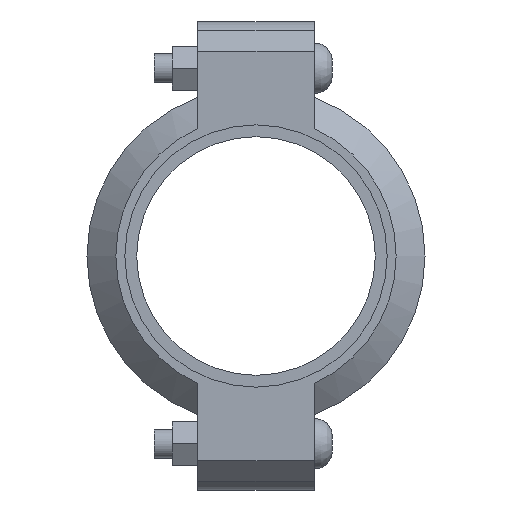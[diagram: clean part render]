
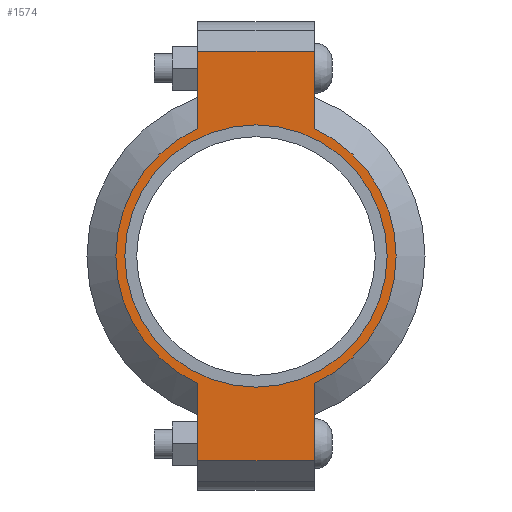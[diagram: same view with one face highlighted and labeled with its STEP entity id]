
A CAD part, left-side view. The second image highlights one B-rep face of the part: STEP entity #1574.
In plain terms, the highlighted planar face has unit normal (-1, 0, 0) as drawn and (0, 0, 1) by its records, which use the part's own axes.
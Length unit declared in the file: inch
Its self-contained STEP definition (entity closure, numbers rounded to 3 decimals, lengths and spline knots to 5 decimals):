
#198=LINE('',#2747,#291);
#206=LINE('',#2783,#299);
#213=LINE('',#2804,#306);
#222=LINE('',#2836,#315);
#223=LINE('',#2840,#316);
#224=LINE('',#2842,#317);
#291=VECTOR('',#2235,0.3937);
#299=VECTOR('',#2251,0.3937);
#306=VECTOR('',#2270,0.3937);
#315=VECTOR('',#2295,0.3937);
#316=VECTOR('',#2300,0.3937);
#317=VECTOR('',#2301,0.3937);
#373=FACE_BOUND('',#551,.T.);
#445=FACE_OUTER_BOUND('',#550,.T.);
#550=EDGE_LOOP('',(#1315,#1316,#1317,#1318,#1319,#1320,#1321,#1322));
#551=EDGE_LOOP('',(#1323));
#623=CIRCLE('',#1793,2.25);
#649=CIRCLE('',#1852,2.405);
#650=CIRCLE('',#1853,2.405);
#715=VERTEX_POINT('',#2563);
#758=VERTEX_POINT('',#2744);
#759=VERTEX_POINT('',#2746);
#770=VERTEX_POINT('',#2778);
#771=VERTEX_POINT('',#2782);
#778=VERTEX_POINT('',#2801);
#779=VERTEX_POINT('',#2803);
#789=VERTEX_POINT('',#2839);
#790=VERTEX_POINT('',#2841);
#871=EDGE_CURVE('',#715,#715,#623,.T.);
#932=EDGE_CURVE('',#759,#758,#198,.T.);
#946=EDGE_CURVE('',#771,#770,#206,.T.);
#956=EDGE_CURVE('',#779,#778,#213,.T.);
#971=EDGE_CURVE('',#771,#758,#222,.T.);
#972=EDGE_CURVE('',#770,#779,#649,.T.);
#973=EDGE_CURVE('',#789,#778,#223,.T.);
#974=EDGE_CURVE('',#789,#790,#224,.T.);
#975=EDGE_CURVE('',#790,#759,#650,.T.);
#1315=ORIENTED_EDGE('',*,*,#971,.F.);
#1316=ORIENTED_EDGE('',*,*,#946,.T.);
#1317=ORIENTED_EDGE('',*,*,#972,.T.);
#1318=ORIENTED_EDGE('',*,*,#956,.T.);
#1319=ORIENTED_EDGE('',*,*,#973,.F.);
#1320=ORIENTED_EDGE('',*,*,#974,.T.);
#1321=ORIENTED_EDGE('',*,*,#975,.T.);
#1322=ORIENTED_EDGE('',*,*,#932,.T.);
#1323=ORIENTED_EDGE('',*,*,#871,.T.);
#1416=PLANE('',#1851);
#1574=ADVANCED_FACE('',(#445,#373),#1416,.T.);
#1793=AXIS2_PLACEMENT_3D('',#2565,#2111,#2112);
#1851=AXIS2_PLACEMENT_3D('',#2837,#2296,#2297);
#1852=AXIS2_PLACEMENT_3D('',#2838,#2298,#2299);
#1853=AXIS2_PLACEMENT_3D('',#2843,#2302,#2303);
#2111=DIRECTION('center_axis',(0.,0.,-1.));
#2112=DIRECTION('ref_axis',(-1.,0.,0.));
#2235=DIRECTION('',(-1.,0.,0.));
#2251=DIRECTION('',(1.,0.,0.));
#2270=DIRECTION('',(1.,0.,0.));
#2295=DIRECTION('',(0.,1.,0.));
#2296=DIRECTION('center_axis',(0.,0.,1.));
#2297=DIRECTION('ref_axis',(1.,0.,0.));
#2298=DIRECTION('center_axis',(0.,0.,1.));
#2299=DIRECTION('ref_axis',(-1.,0.,0.));
#2300=DIRECTION('',(0.,-1.,0.));
#2301=DIRECTION('',(-1.,0.,0.));
#2302=DIRECTION('center_axis',(0.,0.,1.));
#2303=DIRECTION('ref_axis',(-1.,0.,0.));
#2563=CARTESIAN_POINT('',(2.25,0.,1.065));
#2565=CARTESIAN_POINT('Origin',(0.,0.,1.065));
#2744=CARTESIAN_POINT('',(-3.515,1.,1.065));
#2746=CARTESIAN_POINT('',(-2.18724,1.,1.065));
#2747=CARTESIAN_POINT('',(-4.015,1.,1.065));
#2778=CARTESIAN_POINT('',(-2.18724,-1.,1.065));
#2782=CARTESIAN_POINT('',(-3.515,-1.,1.065));
#2783=CARTESIAN_POINT('',(4.015,-1.,1.065));
#2801=CARTESIAN_POINT('',(3.515,-1.,1.065));
#2803=CARTESIAN_POINT('',(2.18724,-1.,1.065));
#2804=CARTESIAN_POINT('',(4.015,-1.,1.065));
#2836=CARTESIAN_POINT('',(-3.515,0.5,1.065));
#2837=CARTESIAN_POINT('Origin',(0.,0.,1.065));
#2838=CARTESIAN_POINT('Origin',(0.,0.,1.065));
#2839=CARTESIAN_POINT('',(3.515,1.,1.065));
#2840=CARTESIAN_POINT('',(3.515,-0.5,1.065));
#2841=CARTESIAN_POINT('',(2.18724,1.,1.065));
#2842=CARTESIAN_POINT('',(-4.015,1.,1.065));
#2843=CARTESIAN_POINT('Origin',(0.,0.,1.065));
